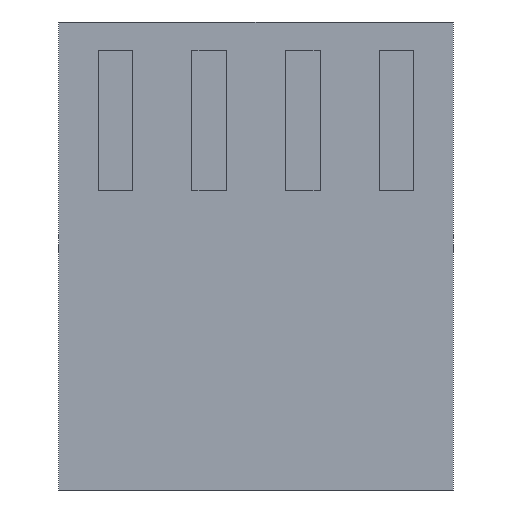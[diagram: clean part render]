
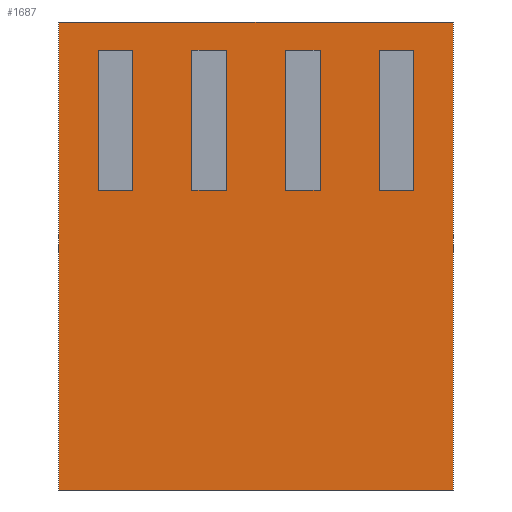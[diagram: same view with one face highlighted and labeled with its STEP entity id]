
A CAD part, front view. The second image highlights one B-rep face of the part: STEP entity #1687.
In plain terms, the highlighted planar face has unit normal (0, -1, 0).
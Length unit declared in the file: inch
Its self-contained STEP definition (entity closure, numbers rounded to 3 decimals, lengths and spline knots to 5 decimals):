
#73=DIRECTION('',(-1.,0.,0.));
#74=VECTOR('',#73,0.422);
#75=CARTESIAN_POINT('',(0.211,0.,0.));
#76=LINE('',#75,#74);
#193=DIRECTION('',(-1.,0.,0.));
#194=VECTOR('',#193,0.422);
#195=CARTESIAN_POINT('',(0.211,0.,-0.5));
#196=LINE('',#195,#194);
#337=DIRECTION('',(0.,0.,-1.));
#338=VECTOR('',#337,0.5);
#339=CARTESIAN_POINT('',(0.211,0.,0.));
#340=LINE('',#339,#338);
#341=DIRECTION('',(0.,0.,-1.));
#342=VECTOR('',#341,0.15);
#343=CARTESIAN_POINT('',(-0.1685,0.,-0.03));
#344=LINE('',#343,#342);
#345=DIRECTION('',(1.,0.,0.));
#346=VECTOR('',#345,0.037);
#347=CARTESIAN_POINT('',(-0.1685,0.,-0.18));
#348=LINE('',#347,#346);
#349=DIRECTION('',(0.,0.,1.));
#350=VECTOR('',#349,0.15);
#351=CARTESIAN_POINT('',(-0.1315,0.,-0.18));
#352=LINE('',#351,#350);
#353=DIRECTION('',(-1.,0.,0.));
#354=VECTOR('',#353,0.037);
#355=CARTESIAN_POINT('',(-0.1315,0.,-0.03));
#356=LINE('',#355,#354);
#357=DIRECTION('',(0.,0.,-1.));
#358=VECTOR('',#357,0.15);
#359=CARTESIAN_POINT('',(-0.0685,0.,-0.03));
#360=LINE('',#359,#358);
#361=DIRECTION('',(1.,0.,0.));
#362=VECTOR('',#361,0.037);
#363=CARTESIAN_POINT('',(-0.0685,0.,-0.18));
#364=LINE('',#363,#362);
#365=DIRECTION('',(0.,0.,1.));
#366=VECTOR('',#365,0.15);
#367=CARTESIAN_POINT('',(-0.0315,0.,-0.18));
#368=LINE('',#367,#366);
#369=DIRECTION('',(-1.,0.,0.));
#370=VECTOR('',#369,0.037);
#371=CARTESIAN_POINT('',(-0.0315,0.,-0.03));
#372=LINE('',#371,#370);
#373=DIRECTION('',(0.,0.,-1.));
#374=VECTOR('',#373,0.15);
#375=CARTESIAN_POINT('',(0.0315,0.,-0.03));
#376=LINE('',#375,#374);
#377=DIRECTION('',(1.,0.,0.));
#378=VECTOR('',#377,0.037);
#379=CARTESIAN_POINT('',(0.0315,0.,-0.18));
#380=LINE('',#379,#378);
#381=DIRECTION('',(0.,0.,1.));
#382=VECTOR('',#381,0.15);
#383=CARTESIAN_POINT('',(0.0685,0.,-0.18));
#384=LINE('',#383,#382);
#385=DIRECTION('',(-1.,0.,0.));
#386=VECTOR('',#385,0.037);
#387=CARTESIAN_POINT('',(0.0685,0.,-0.03));
#388=LINE('',#387,#386);
#389=DIRECTION('',(0.,0.,-1.));
#390=VECTOR('',#389,0.15);
#391=CARTESIAN_POINT('',(0.1315,0.,-0.03));
#392=LINE('',#391,#390);
#393=DIRECTION('',(1.,0.,0.));
#394=VECTOR('',#393,0.037);
#395=CARTESIAN_POINT('',(0.1315,0.,-0.18));
#396=LINE('',#395,#394);
#397=DIRECTION('',(0.,0.,1.));
#398=VECTOR('',#397,0.15);
#399=CARTESIAN_POINT('',(0.1685,0.,-0.18));
#400=LINE('',#399,#398);
#401=DIRECTION('',(-1.,0.,0.));
#402=VECTOR('',#401,0.037);
#403=CARTESIAN_POINT('',(0.1685,0.,-0.03));
#404=LINE('',#403,#402);
#445=DIRECTION('',(0.,0.,-1.));
#446=VECTOR('',#445,0.5);
#447=CARTESIAN_POINT('',(-0.211,0.,0.));
#448=LINE('',#447,#446);
#985=CARTESIAN_POINT('',(0.211,0.,0.));
#986=CARTESIAN_POINT('',(-0.211,0.,0.));
#987=VERTEX_POINT('',#985);
#988=VERTEX_POINT('',#986);
#993=CARTESIAN_POINT('',(0.211,0.,-0.5));
#994=CARTESIAN_POINT('',(-0.211,0.,-0.5));
#995=VERTEX_POINT('',#993);
#996=VERTEX_POINT('',#994);
#1073=CARTESIAN_POINT('',(-0.1685,0.,-0.03));
#1074=CARTESIAN_POINT('',(-0.1685,0.,-0.18));
#1075=VERTEX_POINT('',#1073);
#1076=VERTEX_POINT('',#1074);
#1077=CARTESIAN_POINT('',(-0.1315,0.,-0.18));
#1078=VERTEX_POINT('',#1077);
#1079=CARTESIAN_POINT('',(-0.1315,0.,-0.03));
#1080=VERTEX_POINT('',#1079);
#1261=CARTESIAN_POINT('',(-0.0685,0.,-0.03));
#1262=CARTESIAN_POINT('',(-0.0685,0.,-0.18));
#1263=VERTEX_POINT('',#1261);
#1264=VERTEX_POINT('',#1262);
#1265=CARTESIAN_POINT('',(-0.0315,0.,-0.18));
#1266=VERTEX_POINT('',#1265);
#1267=CARTESIAN_POINT('',(-0.0315,0.,-0.03));
#1268=VERTEX_POINT('',#1267);
#1277=CARTESIAN_POINT('',(0.0315,0.,-0.03));
#1278=CARTESIAN_POINT('',(0.0315,0.,-0.18));
#1279=VERTEX_POINT('',#1277);
#1280=VERTEX_POINT('',#1278);
#1281=CARTESIAN_POINT('',(0.0685,0.,-0.18));
#1282=VERTEX_POINT('',#1281);
#1283=CARTESIAN_POINT('',(0.0685,0.,-0.03));
#1284=VERTEX_POINT('',#1283);
#1293=CARTESIAN_POINT('',(0.1315,0.,-0.03));
#1294=CARTESIAN_POINT('',(0.1315,0.,-0.18));
#1295=VERTEX_POINT('',#1293);
#1296=VERTEX_POINT('',#1294);
#1297=CARTESIAN_POINT('',(0.1685,0.,-0.18));
#1298=VERTEX_POINT('',#1297);
#1299=CARTESIAN_POINT('',(0.1685,0.,-0.03));
#1300=VERTEX_POINT('',#1299);
#1634=CARTESIAN_POINT('',(0.211,0.,0.));
#1635=DIRECTION('',(0.,-1.,0.));
#1636=DIRECTION('',(-1.,0.,0.));
#1637=AXIS2_PLACEMENT_3D('',#1634,#1635,#1636);
#1638=PLANE('',#1637);
#1639=ORIENTED_EDGE('',*,*,#1310,.F.);
#1641=ORIENTED_EDGE('',*,*,#1640,.T.);
#1642=ORIENTED_EDGE('',*,*,#1556,.T.);
#1644=ORIENTED_EDGE('',*,*,#1643,.F.);
#1645=EDGE_LOOP('',(#1639,#1641,#1642,#1644));
#1646=FACE_OUTER_BOUND('',#1645,.F.);
#1648=ORIENTED_EDGE('',*,*,#1647,.T.);
#1650=ORIENTED_EDGE('',*,*,#1649,.T.);
#1652=ORIENTED_EDGE('',*,*,#1651,.T.);
#1654=ORIENTED_EDGE('',*,*,#1653,.T.);
#1655=EDGE_LOOP('',(#1648,#1650,#1652,#1654));
#1656=FACE_BOUND('',#1655,.F.);
#1658=ORIENTED_EDGE('',*,*,#1657,.T.);
#1660=ORIENTED_EDGE('',*,*,#1659,.T.);
#1662=ORIENTED_EDGE('',*,*,#1661,.T.);
#1664=ORIENTED_EDGE('',*,*,#1663,.T.);
#1665=EDGE_LOOP('',(#1658,#1660,#1662,#1664));
#1666=FACE_BOUND('',#1665,.F.);
#1668=ORIENTED_EDGE('',*,*,#1667,.T.);
#1670=ORIENTED_EDGE('',*,*,#1669,.T.);
#1672=ORIENTED_EDGE('',*,*,#1671,.T.);
#1674=ORIENTED_EDGE('',*,*,#1673,.T.);
#1675=EDGE_LOOP('',(#1668,#1670,#1672,#1674));
#1676=FACE_BOUND('',#1675,.F.);
#1678=ORIENTED_EDGE('',*,*,#1677,.T.);
#1680=ORIENTED_EDGE('',*,*,#1679,.T.);
#1682=ORIENTED_EDGE('',*,*,#1681,.T.);
#1684=ORIENTED_EDGE('',*,*,#1683,.T.);
#1685=EDGE_LOOP('',(#1678,#1680,#1682,#1684));
#1686=FACE_BOUND('',#1685,.F.);
#1687=ADVANCED_FACE('',(#1646,#1656,#1666,#1676,#1686),#1638,.T.);
#1310=EDGE_CURVE('',#987,#988,#76,.T.);
#1556=EDGE_CURVE('',#995,#996,#196,.T.);
#1640=EDGE_CURVE('',#987,#995,#340,.T.);
#1643=EDGE_CURVE('',#988,#996,#448,.T.);
#1647=EDGE_CURVE('',#1075,#1076,#344,.T.);
#1649=EDGE_CURVE('',#1076,#1078,#348,.T.);
#1651=EDGE_CURVE('',#1078,#1080,#352,.T.);
#1653=EDGE_CURVE('',#1080,#1075,#356,.T.);
#1657=EDGE_CURVE('',#1263,#1264,#360,.T.);
#1659=EDGE_CURVE('',#1264,#1266,#364,.T.);
#1661=EDGE_CURVE('',#1266,#1268,#368,.T.);
#1663=EDGE_CURVE('',#1268,#1263,#372,.T.);
#1667=EDGE_CURVE('',#1279,#1280,#376,.T.);
#1669=EDGE_CURVE('',#1280,#1282,#380,.T.);
#1671=EDGE_CURVE('',#1282,#1284,#384,.T.);
#1673=EDGE_CURVE('',#1284,#1279,#388,.T.);
#1677=EDGE_CURVE('',#1295,#1296,#392,.T.);
#1679=EDGE_CURVE('',#1296,#1298,#396,.T.);
#1681=EDGE_CURVE('',#1298,#1300,#400,.T.);
#1683=EDGE_CURVE('',#1300,#1295,#404,.T.);
